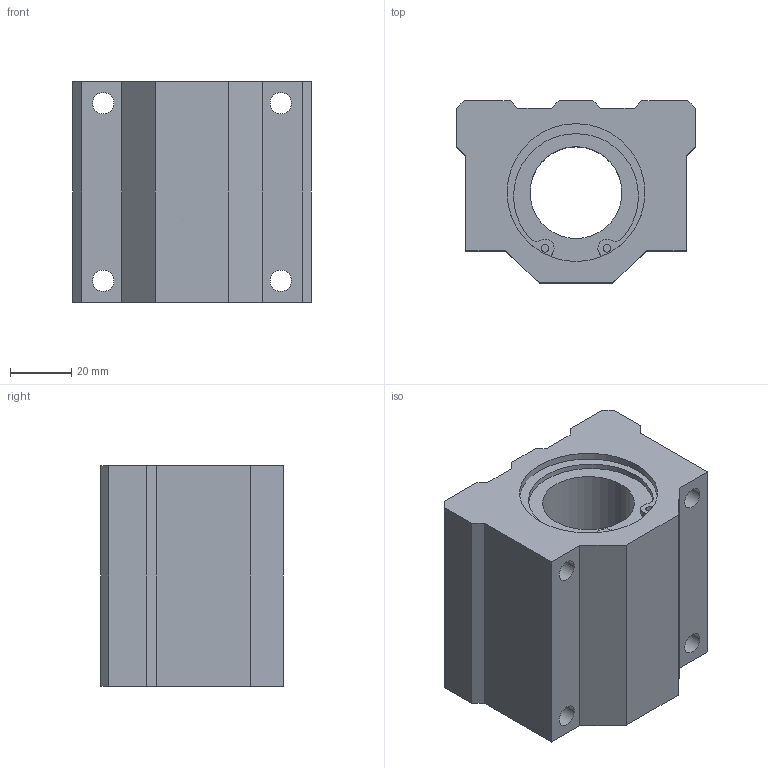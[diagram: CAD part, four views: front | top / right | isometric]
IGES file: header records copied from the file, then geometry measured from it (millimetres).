
Start section: 3D InterOp IGES (Version 21 0 1), Spatial Corp. Copyright (c) 1999-2007.
Global section: file name: LC-30VAUU.igs; native system: Spatial Corp.; preprocessor: 3D InterOp GENERIC/IGES 3.0; author: Noname; organization: Noname; date: 20220519.103541; units: millimetre
Bounding box: 78 x 59.5 x 72 mm (x, y, z)
Surface area: 36362.6 mm2 (no closed solid volume)
Topology: 0 solids, 0 shells, 86 faces, 452 edges, 452 vertices
Faces by surface type: revolution 50, extrusion 36
